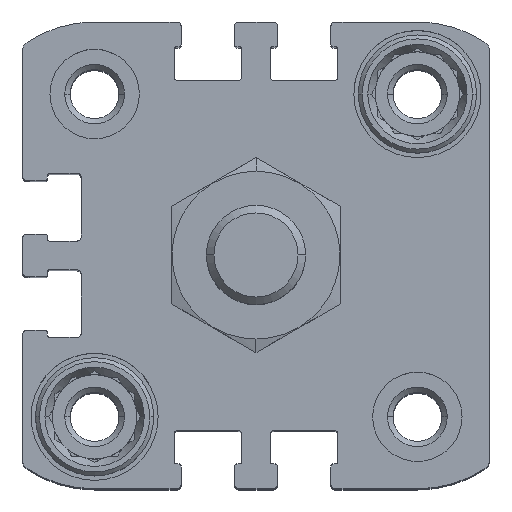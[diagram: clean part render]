
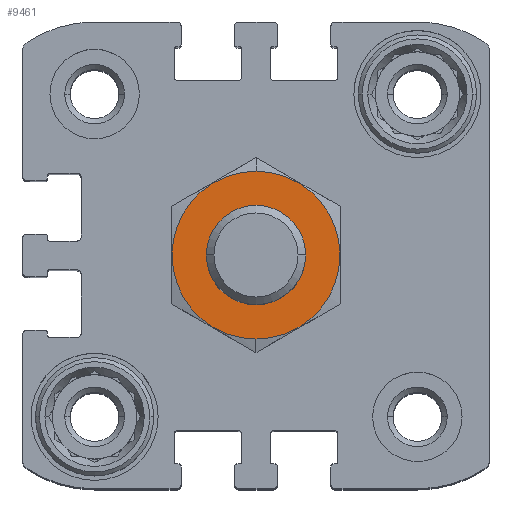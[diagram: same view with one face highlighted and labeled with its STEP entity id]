
A CAD part, top view. The second image highlights one B-rep face of the part: STEP entity #9461.
In plain terms, the highlighted planar face has unit normal (0, 0, 1) as drawn and (0, 1, 0) by its records, which use the part's own axes.
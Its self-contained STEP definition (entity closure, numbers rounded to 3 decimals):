
#1996 = CIRCLE ( 'NONE', #12325, 8.45 ) ;
#2047 = EDGE_CURVE ( 'NONE', #14650, #4673, #15397, .T. ) ;
#2130 = ORIENTED_EDGE ( 'NONE', *, *, #6430, .F. ) ;
#4165 = ORIENTED_EDGE ( 'NONE', *, *, #8309, .F. ) ;
#4282 = DIRECTION ( 'NONE',  ( 0., -1., 0. ) ) ;
#4673 = VERTEX_POINT ( 'NONE', #14746 ) ;
#4718 = DIRECTION ( 'NONE',  ( 0., 1., 0. ) ) ;
#4862 = DIRECTION ( 'NONE',  ( 0., 1., 0. ) ) ;
#4874 = AXIS2_PLACEMENT_3D ( 'NONE', #12204, #4718, #13425 ) ;
#4942 = AXIS2_PLACEMENT_3D ( 'NONE', #12335, #4862, #13568 ) ;
#5245 = CARTESIAN_POINT ( 'NONE',  ( 0., 0., 0. ) ) ;
#5462 = CIRCLE ( 'NONE', #13021, 8.45 ) ;
#6123 = ORIENTED_EDGE ( 'NONE', *, *, #14976, .F. ) ;
#6389 = EDGE_LOOP ( 'NONE', ( #7534, #4165 ) ) ;
#6430 = EDGE_CURVE ( 'NONE', #8312, #15570, #1996, .T. ) ;
#6515 = DIRECTION ( 'NONE',  ( 0., 0., -1. ) ) ;
#7534 = ORIENTED_EDGE ( 'NONE', *, *, #2047, .F. ) ;
#8309 = EDGE_CURVE ( 'NONE', #4673, #14650, #10195, .T. ) ;
#8312 = VERTEX_POINT ( 'NONE', #11128 ) ;
#8574 = DIRECTION ( 'NONE',  ( 0., 0., -1. ) ) ;
#8699 = EDGE_LOOP ( 'NONE', ( #2130, #6123 ) ) ;
#9461 = ADVANCED_FACE ( 'NONE', ( #14638, #11442 ), #13428, .F. ) ;
#9776 = CARTESIAN_POINT ( 'NONE',  ( 0., 0., 0. ) ) ;
#10195 = CIRCLE ( 'NONE', #4942, 5. ) ;
#11128 = CARTESIAN_POINT ( 'NONE',  ( 0., 0., -8.45 ) ) ;
#11129 = CARTESIAN_POINT ( 'NONE',  ( 0., 0., 5. ) ) ;
#11442 = FACE_OUTER_BOUND ( 'NONE', #8699, .T. ) ;
#11827 = CARTESIAN_POINT ( 'NONE',  ( 0., 0., 0. ) ) ;
#12204 = CARTESIAN_POINT ( 'NONE',  ( 0., 0., 0. ) ) ;
#12325 = AXIS2_PLACEMENT_3D ( 'NONE', #11827, #4282, #13055 ) ;
#12335 = CARTESIAN_POINT ( 'NONE',  ( 0., 0., 0. ) ) ;
#13021 = AXIS2_PLACEMENT_3D ( 'NONE', #5245, #13921, #6515 ) ;
#13055 = DIRECTION ( 'NONE',  ( 0., 0., -1. ) ) ;
#13425 = DIRECTION ( 'NONE',  ( 0., 0., 1. ) ) ;
#13428 = PLANE ( 'NONE',  #15319 ) ;
#13568 = DIRECTION ( 'NONE',  ( 0., 0., 1. ) ) ;
#13921 = DIRECTION ( 'NONE',  ( 0., -1., 0. ) ) ;
#14638 = FACE_BOUND ( 'NONE', #6389, .T. ) ;
#14650 = VERTEX_POINT ( 'NONE', #11129 ) ;
#14746 = CARTESIAN_POINT ( 'NONE',  ( 0., 0., -5. ) ) ;
#14976 = EDGE_CURVE ( 'NONE', #15570, #8312, #5462, .T. ) ;
#15045 = CARTESIAN_POINT ( 'NONE',  ( 0., 0., 8.45 ) ) ;
#15319 = AXIS2_PLACEMENT_3D ( 'NONE', #9776, #15831, #8574 ) ;
#15397 = CIRCLE ( 'NONE', #4874, 5. ) ;
#15570 = VERTEX_POINT ( 'NONE', #15045 ) ;
#15831 = DIRECTION ( 'NONE',  ( 0., -1., 0. ) ) ;
